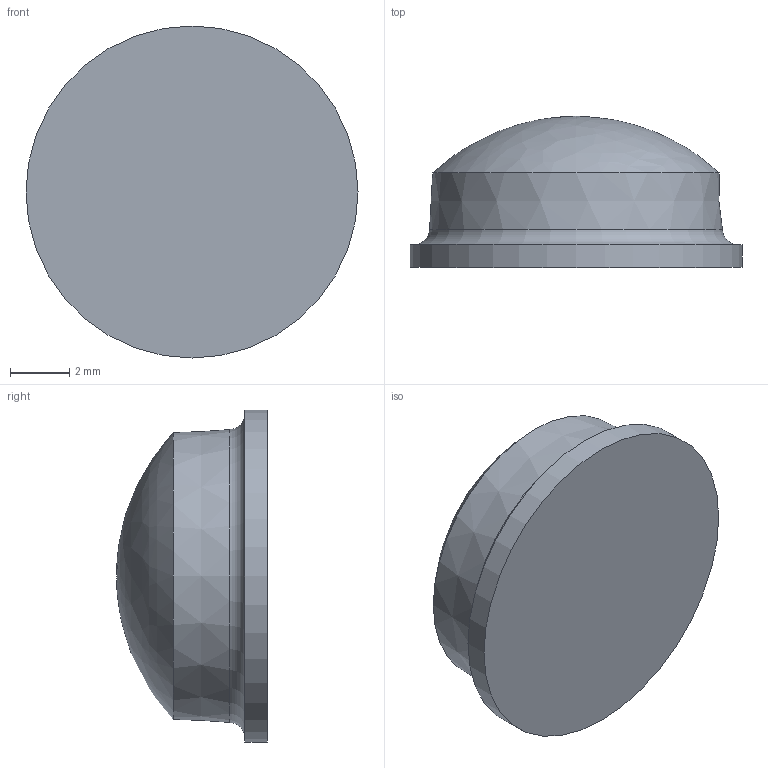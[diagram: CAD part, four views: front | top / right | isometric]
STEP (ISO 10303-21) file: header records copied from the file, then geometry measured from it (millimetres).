
FILE_DESCRIPTION(/* description */ (''),/* implementation_level */ '2;1');
FILE_NAME(/* name */ 'C:/Users/Mark/Downloads/STEP Files/BS02.step',/* time_stamp */ '2020-02-10T10:54:35-05:00',/* author */ (''),/* organization */ (''),/* preprocessor_version */ 'ST-DEVELOPER v18',/* originating_system */ 'Autodesk Translation Framework v8.12.0.6',/* authorisation */ '');
FILE_SCHEMA (('AUTOMOTIVE_DESIGN { 1 0 10303 214 3 1 1 }'));
Length unit declared in the file: inch
Products named in the file (1): BS02
Bounding box: 11.18 x 5.08 x 11.18 mm (x, y, z)
Volume: 331.1 mm3; surface area: 298.5 mm2
Topology: 1 solids, 1 shells, 6 faces, 14 edges, 10 vertices
Faces by surface type: plane 2, bspline 1, torus 1, cone 1, cylinder 1
Full cylindrical faces by diameter (mm): 11.176 x1
Entity records: 237 total; most frequent: CARTESIAN_POINT 56, DIRECTION 36, ORIENTED_EDGE 26, AXIS2_PLACEMENT_3D 17, EDGE_CURVE 13, CIRCLE 11, VERTEX_POINT 10, EDGE_LOOP 7
